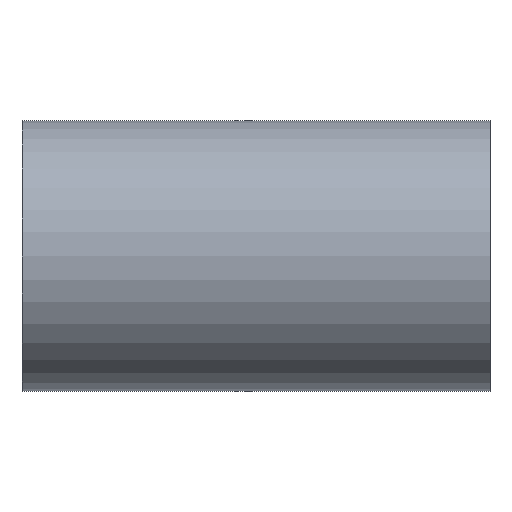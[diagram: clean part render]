
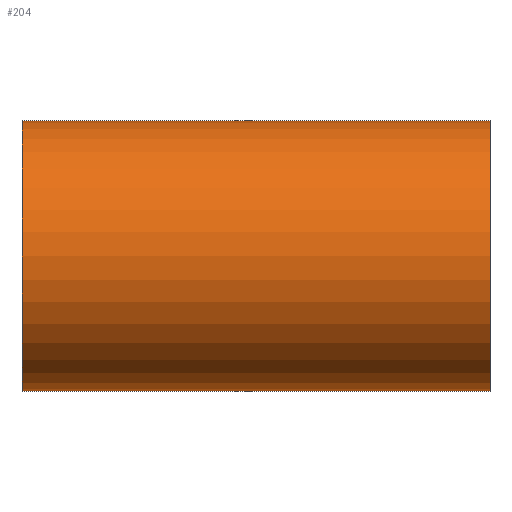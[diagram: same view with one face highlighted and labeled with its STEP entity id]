
A CAD part, front view. The second image highlights one B-rep face of the part: STEP entity #204.
In plain terms, the highlighted cylindrical face has radius 38.1 mm (diameter 76.2 mm), a partial arc.
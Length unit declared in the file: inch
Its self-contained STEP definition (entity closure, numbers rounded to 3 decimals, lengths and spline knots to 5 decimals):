
#13 = DIRECTION ( 'NONE',  ( 0., 0., -1. ) ) ;
#31 = CARTESIAN_POINT ( 'NONE',  ( 2.5935, 0., 1.5 ) ) ;
#32 = CARTESIAN_POINT ( 'NONE',  ( 2.5935, 0., 1.5 ) ) ;
#40 = EDGE_CURVE ( 'NONE', #373, #119, #618, .T. ) ;
#53 = DIRECTION ( 'NONE',  ( 1., 0., 0. ) ) ;
#77 = DIRECTION ( 'NONE',  ( 0., 0., 1. ) ) ;
#101 = CARTESIAN_POINT ( 'NONE',  ( 2.5935, 0., 0. ) ) ;
#119 = VERTEX_POINT ( 'NONE', #559 ) ;
#138 = DIRECTION ( 'NONE',  ( -1., 0., 0. ) ) ;
#165 = VERTEX_POINT ( 'NONE', #175 ) ;
#175 = CARTESIAN_POINT ( 'NONE',  ( 2.5935, 0., -1.5 ) ) ;
#178 = VECTOR ( 'NONE', #519, 39.37008 ) ;
#196 = VECTOR ( 'NONE', #219, 39.37008 ) ;
#204 = ADVANCED_FACE ( 'NONE', ( #483 ), #352, .T. ) ;
#219 = DIRECTION ( 'NONE',  ( -1., 0., 0. ) ) ;
#227 = CIRCLE ( 'NONE', #548, 1.5 ) ;
#244 = EDGE_LOOP ( 'NONE', ( #356, #258, #268, #255 ) ) ;
#255 = ORIENTED_EDGE ( 'NONE', *, *, #40, .T. ) ;
#258 = ORIENTED_EDGE ( 'NONE', *, *, #372, .F. ) ;
#261 = VERTEX_POINT ( 'NONE', #32 ) ;
#268 = ORIENTED_EDGE ( 'NONE', *, *, #628, .T. ) ;
#274 = CARTESIAN_POINT ( 'NONE',  ( -2.5935, 0., 0. ) ) ;
#309 = LINE ( 'NONE', #31, #178 ) ;
#343 = CARTESIAN_POINT ( 'NONE',  ( -2.5935, 0., 1.5 ) ) ;
#352 = CYLINDRICAL_SURFACE ( 'NONE', #478, 1.5 ) ;
#356 = ORIENTED_EDGE ( 'NONE', *, *, #614, .F. ) ;
#372 = EDGE_CURVE ( 'NONE', #261, #165, #227, .T. ) ;
#373 = VERTEX_POINT ( 'NONE', #343 ) ;
#423 = CARTESIAN_POINT ( 'NONE',  ( 2.5935, 0., -1.5 ) ) ;
#462 = DIRECTION ( 'NONE',  ( 0., 0., -1. ) ) ;
#478 = AXIS2_PLACEMENT_3D ( 'NONE', #630, #138, #77 ) ;
#483 = FACE_OUTER_BOUND ( 'NONE', #244, .T. ) ;
#518 = DIRECTION ( 'NONE',  ( 1., 0., 0. ) ) ;
#519 = DIRECTION ( 'NONE',  ( -1., 0., 0. ) ) ;
#548 = AXIS2_PLACEMENT_3D ( 'NONE', #101, #53, #13 ) ;
#555 = AXIS2_PLACEMENT_3D ( 'NONE', #274, #518, #462 ) ;
#556 = LINE ( 'NONE', #423, #196 ) ;
#559 = CARTESIAN_POINT ( 'NONE',  ( -2.5935, 0., -1.5 ) ) ;
#614 = EDGE_CURVE ( 'NONE', #165, #119, #556, .T. ) ;
#618 = CIRCLE ( 'NONE', #555, 1.5 ) ;
#628 = EDGE_CURVE ( 'NONE', #261, #373, #309, .T. ) ;
#630 = CARTESIAN_POINT ( 'NONE',  ( 2.5935, 0., 0. ) ) ;
